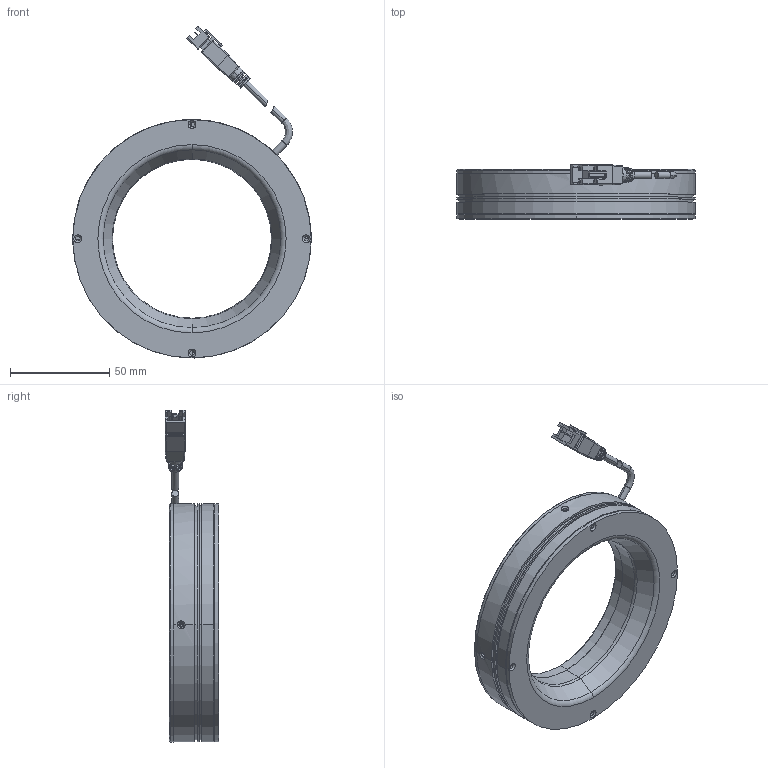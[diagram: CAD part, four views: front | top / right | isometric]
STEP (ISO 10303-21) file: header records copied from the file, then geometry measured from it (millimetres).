
FILE_DESCRIPTION (( 'STEP AP203' ), '1' );
FILE_NAME ('CK-RL12030 ×Ü×°.STEP', '2026-03-13T08:41:16', ( '' ), ( '' ), 'SwSTEP 2.0', 'SolidWorks 2022', '' );
FILE_SCHEMA (( 'CONFIG_CONTROL_DESIGN' ));
Length unit declared in the file: millimetre
Products named in the file (6): CK-RL12030-002; 12030漫射板; 12030灯珠-00; 光源线; CK-RL12030-001; CK-RL12030 总装
Assembly tree (5 placements, depth 2):
  CK-RL12030 总装
    12030漫射板
    CK-RL12030-001
    CK-RL12030-002
    12030灯珠-00
    光源线
Bounding box: 120.01 x 27.06 x 167.09 mm (x, y, z)
Volume: 89750.3 mm3; surface area: 72610.7 mm2
Topology: 7 solids, 7 shells, 395 faces, 970 edges, 578 vertices
Faces by surface type: plane 140, cylinder 134, cone 77, torus 24, bspline 20
Entity records: 13096 total; most frequent: CARTESIAN_POINT 3345, DIRECTION 1944, ORIENTED_EDGE 1868, EDGE_CURVE 934, AXIS2_PLACEMENT_3D 731, VERTEX_POINT 578, LINE 482, VECTOR 482
